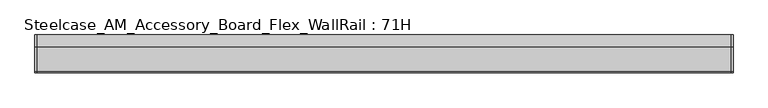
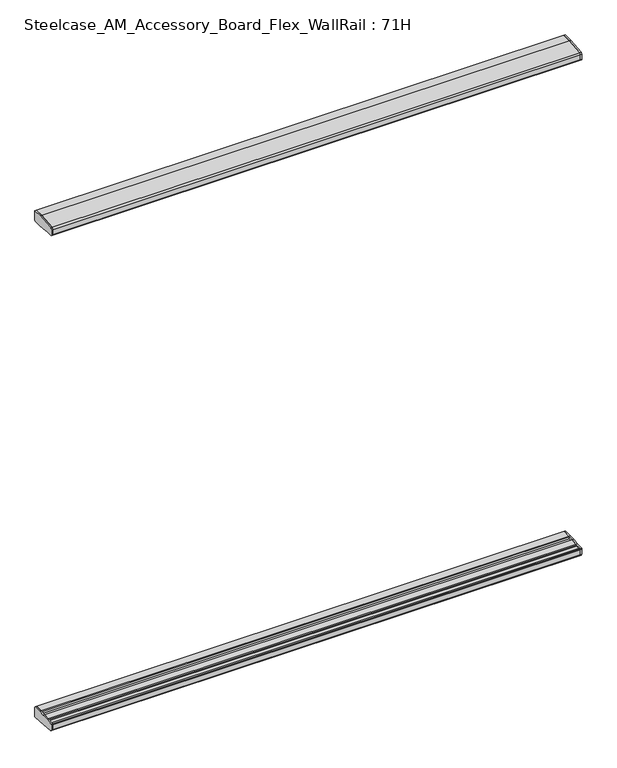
"""IFC4 building model written with IfcOpenShell, lengths in millimetres: furniture geometry, Steelcase_AM_Accessory_Board_Flex_WallRail : 71H."""

from ifc_helpers import new_model, si_unit, frame, origin, place, context, project, spatial, polyline, outline, extrude, source, transform, mapped, element, save


def steelcase_am_accessory_board_flex_wallrail_71h_206964c7(model_context):
    return source(origin(), model_context, "Body", "SweptSolid", [
        extrude(outline(polyline([(-29.748384, 311.8124036), (-2.0015978, 311.8124036), (0.0, 309.8107755), (0.0, 274.6124455), (-31.7483991, 274.6124455), (-95.5653908, 280.1038739), (-99.9999601, 284.9364269), (-99.9999601, 304.160545), (-98.0172056, 306.3145802), (-73.1435844, 308.3782149), (-50.3978144, 310.4594831), (-29.748384, 311.8124036)])), frame((1840.1357422, 0.0, 0.0), z_axis=(1.0, 0.0, 0.0), x_axis=(0.0, 1.0, 0.0)), (0.0, 0.0, 1.0), 4.9857422),
        extrude(outline(polyline([(-29.748384, 2096.400042), (-50.3978144, 2097.7529625), (-73.1435844, 2099.8342307), (-98.0172056, 2101.8978653), (-99.9999601, 2104.0519005), (-99.9999601, 2123.2760186), (-95.5653908, 2128.1085716), (-31.7483991, 2133.6), (0.0, 2133.6), (0.0, 2098.40167), (-2.0015978, 2096.400042), (-29.748384, 2096.400042)])), frame((1840.1357422, 0.0, 0.0), z_axis=(1.0, 0.0, 0.0), x_axis=(0.0, 1.0, 0.0)), (0.0, 0.0, 1.0), 4.9857422),
        extrude(outline(polyline([(-29.748384, 311.8124036), (-2.0015978, 311.8124036), (0.0, 309.8107755), (0.0, 274.6124455), (-31.7483991, 274.6124455), (-95.5653908, 280.1038739), (-99.9999601, 284.9364269), (-99.9999601, 304.160545), (-98.0172056, 306.3145802), (-73.1435844, 308.3782149), (-50.3978144, 310.4594831), (-29.748384, 311.8124036)])), frame((0.0, 0.0, 0.0), z_axis=(1.0, 0.0, 0.0), x_axis=(0.0, 1.0, 0.0)), (0.0, 0.0, 1.0), 4.9857422),
        extrude(outline(polyline([(-29.748384, 2096.400042), (-50.3978144, 2097.7529625), (-73.1435844, 2099.8342307), (-98.0172056, 2101.8978653), (-99.9999601, 2104.0519005), (-99.9999601, 2123.2760186), (-95.5653908, 2128.1085716), (-31.7483991, 2133.6), (0.0, 2133.6), (0.0, 2098.40167), (-2.0015978, 2096.400042), (-29.748384, 2096.400042)])), frame((0.0, 0.0, 0.0), z_axis=(1.0, 0.0, 0.0), x_axis=(0.0, 1.0, 0.0)), (0.0, 0.0, 1.0), 4.9857422),
        extrude(outline(polyline([(0.0, 309.8107755), (0.0, 274.6124455), (-31.7483991, 274.6124455), (-95.5653908, 280.1038739), (-99.9999606, 284.9364278), (-99.9999598, 304.160545), (-98.0172056, 306.3145802), (-93.9826847, 306.6493034), (-91.9999743, 304.8242642), (-91.9999735, 302.4062228), (-75.1383227, 302.4062228), (-75.1383233, 306.2110981), (-73.1435844, 308.3782149), (-50.3978144, 310.4594831), (-48.4030258, 308.4293275), (-48.4030258, 302.4062228), (-31.7499758, 302.4062228), (-31.7499758, 309.8107815), (-29.748384, 311.8124036), (-2.0015978, 311.8124036), (0.0, 309.8107755)])), frame((4.9857422, 0.0, 0.0), z_axis=(1.0, 0.0, 0.0), x_axis=(0.0, 1.0, 0.0)), (0.0, 0.0, 1.0), 1835.15),
        extrude(outline(polyline([(0.0, 2098.40167), (-2.0015978, 2096.400042), (-29.748384, 2096.400042), (-31.7499758, 2098.401664), (-31.7499758, 2105.8062228), (-48.4030258, 2105.8062228), (-48.4030258, 2099.783118), (-50.3978144, 2097.7529625), (-73.1435844, 2099.8342307), (-75.1383233, 2102.0013474), (-75.1383227, 2105.8062228), (-91.9999735, 2105.8062228), (-91.9999743, 2103.3881813), (-93.9826847, 2101.5631421), (-98.0172056, 2101.8978653), (-99.9999601, 2104.0519008), (-99.9999601, 2123.2760183), (-95.5653908, 2128.1085716), (-31.7483991, 2133.6), (0.0, 2133.6), (0.0, 2098.40167)])), frame((4.9857422, 0.0, 0.0), z_axis=(1.0, 0.0, 0.0), x_axis=(0.0, 1.0, 0.0)), (0.0, 0.0, 1.0), 1835.15),
    ])


if __name__ == "__main__":
    model = new_model("IFC4")
    model_context = context("Model", 3, world=origin())
    ifc_project = project(units=[si_unit("LENGTHUNIT", "METRE", prefix="MILLI")], contexts=[model_context])
    site = spatial("IfcSite", under=ifc_project)
    building = spatial("IfcBuilding", under=site)
    placement = place(None, origin())
    steelcase_am_accessory_board_flex_wallrail_71h_shape = steelcase_am_accessory_board_flex_wallrail_71h_206964c7(model_context)
    element("IfcFurniture", 1, ObjectType="Steelcase_AM_Accessory_Board_Flex_WallRail : 71H", at=placement, inside=building, context=model_context, shape_type="MappedRepresentation", body=[
        mapped(steelcase_am_accessory_board_flex_wallrail_71h_shape, transform((0.0, 0.0, 0.0), x_axis=(1.0, 0.0, 0.0), y_axis=(0.0, 1.0, 0.0), z_axis=(0.0, 0.0, 1.0))),
    ])
    save(model, "model.ifc")
